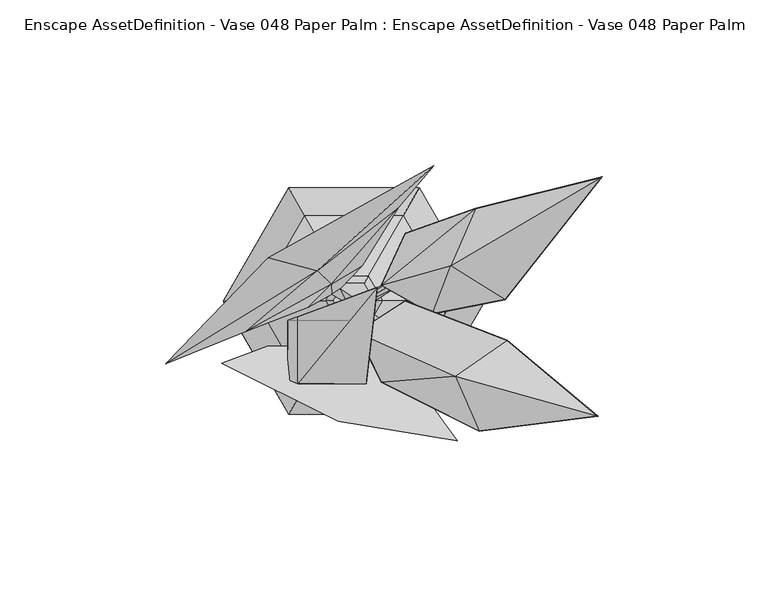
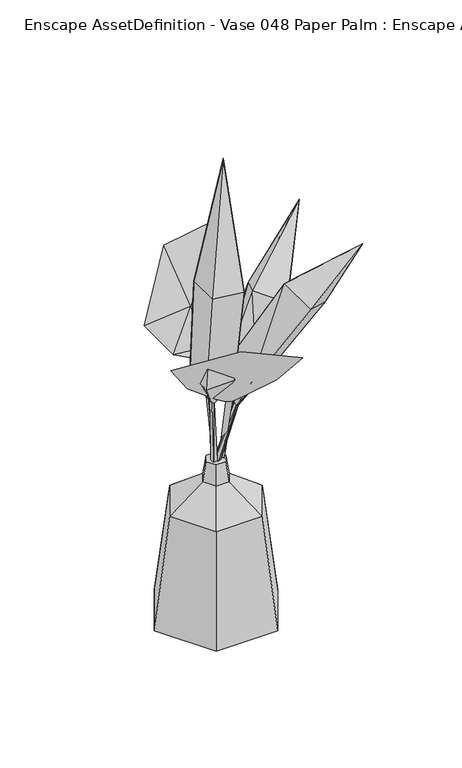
"""IFC4 building model written with IfcOpenShell, lengths in millimetres: geographic element geometry, Enscape AssetDefinition - Vase 048 Paper Palm : Enscape AssetDefinition - Vase 048 Paper Palm."""

from ifc_helpers import new_model, si_unit, origin, place, context, project, spatial, triangles, source, transform, mapped, element, save


def enscape_assetdefinition_vase_048_paper_palm_enscape_02403a3f(model_context):
    return source(origin(), model_context, "Body", "Tessellation", [
        triangles([(0.4401956, 0.5435342, 100.1069256), (5.5762585, 1.5240431, 100.1332321), (39.3706664, 0.0, 0.0), (19.6853332, -34.0958363, 0.0), (-19.6853332, -34.0958363, 0.0), (-39.3706664, 0.0, 0.0), (-19.6853332, 34.0958363, 0.0), (19.6853332, 34.0958363, 0.0), (-29.6251653, 0.0, 73.915551), (-4.2792917, 7.4121963, 89.6020798), (-8.5588514, 0.0, 89.6020798), (-14.8125826, 25.6561579, 73.915551), (4.2792917, 7.4121963, 89.6020798), (14.8125826, 25.6561579, 73.915551), (-3.1074054, -5.3824647, 102.4783379), (-6.2150793, 0.0, 102.4783379), (-3.1074054, 5.3824647, 102.4783379), (3.1074054, 5.3824647, 102.4783379), (8.5588514, 0.0, 89.6020798), (29.6251653, 0.0, 73.915551), (6.2150793, 0.0, 102.4783379), (4.2792917, -7.4121963, 89.6020798), (3.1074054, -5.3824647, 102.4783379), (-4.2792917, -7.4121963, 89.6020798), (-14.8125826, -25.6561579, 73.915551), (14.8125826, -25.6561579, 73.915551), (-39.9128526, -18.7821271, 187.1284761), (-26.1685562, -13.6503591, 167.0346263), (-2.1185755, -25.0892707, 173.5710006), (21.7464674, -29.3943291, 165.668685), (31.064928, -42.1039026, 185.1046716), (-4.7329083, -36.2731902, 198.2380633), (-0.2069456, -15.7351144, 153.1314415), (1.8203699, -14.6123462, 149.4209031), (6.848799, -18.0533868, 152.9304182), (-7.8486335, -13.2241201, 153.3493788), (-1.725352, -13.4474395, 149.522087), (3.019903, 2.3639042, 100.2059657), (-56.7052506, -18.9434408, 223.2910944), (-25.9014872, 13.0464318, 247.4878914), (-11.0838041, 9.0546095, 203.5434989), (13.3712099, 28.0737452, 196.7024557), (23.9850231, 40.6598501, 230.9438068), (-32.559175, -9.0892344, 189.4148191), (-6.6858735, 2.0769716, 160.8735198), (2.3824244, 10.6167666, 176.0900511), (-6.8592675, 5.0990222, 176.1109982), (-13.8350249, -1.9610177, 175.7703758), (-4.1182448, 3.7370996, 161.4009404), (-1.8590214, -0.795573, 99.6986747), (29.183895, 10.6538078, 199.088938), (45.5092498, 0.3594036, 191.5626713), (74.7173053, 37.3621408, 228.4150731), (30.9594384, 11.7846277, 149.2735647), (8.1795857, 4.712777, 158.8421758), (36.6414544, 27.9628894, 191.7586078), (53.0067981, 17.7967857, 184.1867044), (11.0671615, 4.7057987, 132.1209598), (23.5531499, -3.9338456, 154.5435647), (15.4320761, 20.4191706, 153.6403494), (-9.6198854, -7.0090409, 60.9786362), (11.9518481, 6.6472221, 131.1388432), (12.6336141, 4.1606537, 130.2018183), (13.5666138, 6.1128133, 129.1507105), (-5.8554066, -5.8033346, 59.9519638), (-8.3940473, -4.4658379, 60.3889375), (-7.0973491, -8.3473426, 60.562864), (73.4949507, -34.8049772, 242.6344813), (30.4851578, -22.743352, 223.6070271), (53.4147856, -28.3496708, 206.7719719), (8.2429312, -24.5417115, 165.5906011), (23.0536323, -15.1776221, 160.8302994), (37.6426265, -39.3414077, 213.4873505), (46.1531649, -11.8396502, 216.9305451), (0.7778578, -9.4013974, 172.2724425), (15.4589186, 0.0297937, 167.5956204), (9.778784, -7.4371585, 139.5862927), (8.8506163, -6.3533106, 141.7792184), (7.0611129, -7.5702904, 142.6918262), (-3.7781666, 1.1847705, 92.3339898), (7.9466046, -8.644744, 140.5719066), (-2.4943523, -1.2714674, 91.5308865), (-0.0507299, 0.1878884, 90.9954178), (-1.3471595, 2.6500313, 91.8213121), (-16.9384045, -24.9378878, 230.8216667), (-1.8874728, -23.9866354, 170.5191702), (3.6305401, -25.0009631, 228.36355), (6.9553593, 4.0605358, 300.0000023), (-1.7140788, -5.8911057, 172.0099041), (-16.9384045, -4.715193, 230.8216667), (3.6157773, -4.6373538, 228.3654213), (-20.0366835, -23.8129724, 170.1184134), (-7.4395742, -8.1919322, 147.4220517), (-5.3639446, -7.3850864, 146.2077544), (-20.0047428, -5.8092401, 171.6072942), (-5.2281284, -4.9892417, 146.0432023), (-7.3574401, -5.8478921, 147.2977769), (1.806144, 3.1830974, 82.6606794), (1.8045336, 0.3261205, 82.1858628), (-1.0602272, 0.3908078, 81.8441686), (-1.0774055, 3.2335588, 82.3316116)], [[100, 101, 98], [98, 99, 100], [97, 101, 100], [96, 98, 101], [99, 98, 96], [96, 101, 97], [100, 99, 94], [94, 99, 96], [97, 100, 93], [93, 100, 94], [95, 97, 93], [89, 96, 97], [94, 96, 89], [89, 97, 95], [91, 89, 95], [93, 94, 86], [86, 94, 89], [95, 93, 92], [92, 93, 86], [95, 90, 91], [90, 95, 92], [88, 91, 90], [89, 91, 87], [87, 86, 89], [87, 91, 88], [92, 85, 90], [86, 87, 85], [85, 92, 86], [90, 85, 88], [85, 87, 88], [80, 84, 83], [83, 82, 80], [78, 84, 80], [77, 83, 84], [82, 83, 77], [77, 84, 78], [80, 82, 81], [81, 82, 77], [78, 80, 79], [79, 80, 81], [76, 78, 79], [72, 77, 78], [81, 77, 72], [72, 78, 76], [70, 72, 76], [79, 81, 71], [71, 81, 72], [76, 79, 75], [75, 79, 71], [76, 74, 70], [74, 76, 75], [68, 70, 74], [72, 70, 73], [73, 71, 72], [73, 70, 68], [75, 69, 74], [71, 73, 69], [69, 75, 71], [74, 69, 68], [69, 73, 68], [61, 66, 65], [65, 67, 61], [62, 66, 61], [64, 65, 66], [67, 65, 64], [64, 66, 62], [61, 67, 63], [63, 67, 64], [62, 61, 58], [58, 61, 63], [60, 62, 58], [54, 64, 62], [63, 64, 54], [54, 62, 60], [57, 54, 60], [58, 63, 59], [59, 63, 54], [60, 58, 55], [55, 58, 59], [60, 56, 57], [56, 60, 55], [53, 57, 56], [54, 57, 52], [52, 59, 54], [52, 57, 53], [55, 51, 56], [59, 52, 51], [51, 55, 59], [56, 51, 53], [51, 52, 53], [49, 50, 1], [49, 45, 50], [47, 48, 45], [47, 46, 42], [46, 47, 49], [47, 45, 49], [44, 48, 47], [43, 40, 41], [42, 43, 41], [44, 47, 41], [47, 42, 41], [39, 44, 41], [39, 41, 40], [34, 38, 2], [34, 37, 38], [33, 36, 37], [33, 35, 30], [35, 33, 34], [33, 37, 34], [28, 36, 33], [31, 32, 29], [30, 31, 29], [28, 33, 29], [33, 30, 29], [27, 28, 29], [27, 29, 32], [26, 20, 22], [26, 22, 24], [25, 26, 24], [22, 23, 24], [23, 15, 24], [15, 23, 21], [21, 23, 22], [20, 19, 22], [19, 21, 22], [18, 21, 19], [17, 15, 21], [18, 17, 21], [17, 16, 15], [15, 16, 11], [25, 24, 11], [24, 15, 11], [16, 17, 10], [11, 16, 10], [17, 18, 13], [10, 17, 13], [13, 18, 19], [14, 13, 19], [20, 14, 19], [12, 10, 13], [14, 12, 13], [8, 12, 14], [9, 11, 10], [9, 25, 11], [12, 9, 10], [6, 25, 9], [7, 6, 9], [8, 7, 12], [7, 9, 12], [3, 8, 14], [7, 8, 3], [3, 14, 20], [6, 5, 25], [5, 7, 3], [5, 6, 7], [5, 26, 25], [4, 3, 20], [5, 4, 26], [4, 20, 26], [4, 5, 3]], closed=False),
    ])


if __name__ == "__main__":
    model = new_model("IFC4")
    model_context = context("Model", 3, world=origin())
    ifc_project = project(units=[si_unit("LENGTHUNIT", "METRE", prefix="MILLI")], contexts=[model_context])
    site = spatial("IfcSite", under=ifc_project)
    building = spatial("IfcBuilding", under=site)
    placement = place(None, origin())
    enscape_assetdefinition_vase_048_paper_palm_enscape_shape = enscape_assetdefinition_vase_048_paper_palm_enscape_02403a3f(model_context)
    element("IfcGeographicElement", 1, ObjectType="Enscape AssetDefinition - Vase 048 Paper Palm : Enscape AssetDefinition - Vase 048 Paper Palm", at=placement, inside=building, context=model_context, shape_type="MappedRepresentation", body=[
        mapped(enscape_assetdefinition_vase_048_paper_palm_enscape_shape, transform((0.0, 0.0, 0.0), x_axis=(1.0, 0.0, 0.0), y_axis=(0.0, 1.0, 0.0), z_axis=(0.0, 0.0, 1.0))),
    ])
    save(model, "model.ifc")
